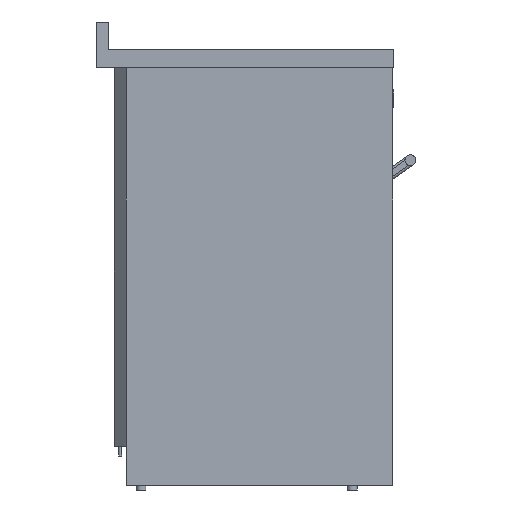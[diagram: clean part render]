
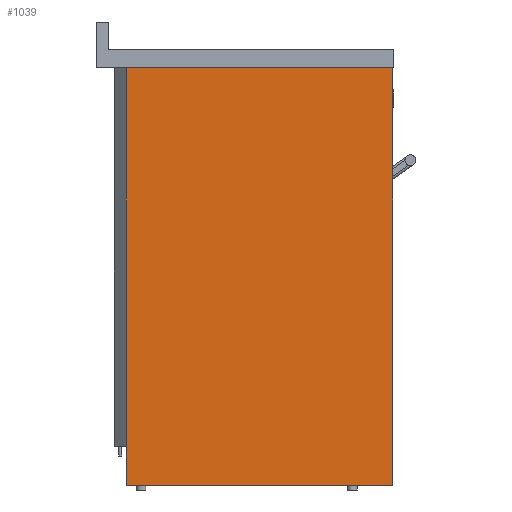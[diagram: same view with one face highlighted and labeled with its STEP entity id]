
A CAD part, left-side view. The second image highlights one B-rep face of the part: STEP entity #1039.
In plain terms, the highlighted planar face has unit normal (-1, 0, 0).
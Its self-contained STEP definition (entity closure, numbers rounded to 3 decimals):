
#479=PLANE('',#6164);
#730=FACE_OUTER_BOUND('',#2717,.T.);
#1039=ADVANCED_FACE('',(#730),#479,.F.);
#1504=LINE('',#8539,#1986);
#1512=LINE('',#8560,#1994);
#1516=LINE('',#8572,#1998);
#1517=LINE('',#8574,#1999);
#1986=VECTOR('',#6879,1.);
#1994=VECTOR('',#6895,1.);
#1998=VECTOR('',#6907,1.);
#1999=VECTOR('',#6908,1.);
#2717=EDGE_LOOP('',(#3296,#3297,#3298,#3299));
#3296=ORIENTED_EDGE('',*,*,#5215,.F.);
#3297=ORIENTED_EDGE('',*,*,#5209,.F.);
#3298=ORIENTED_EDGE('',*,*,#5199,.F.);
#3299=ORIENTED_EDGE('',*,*,#5216,.F.);
#4659=VERTEX_POINT('',#8538);
#4660=VERTEX_POINT('',#8540);
#4668=VERTEX_POINT('',#8558);
#4673=VERTEX_POINT('',#8573);
#5199=EDGE_CURVE('',#4659,#4660,#1504,.T.);
#5209=EDGE_CURVE('',#4660,#4668,#1512,.T.);
#5215=EDGE_CURVE('',#4668,#4673,#1516,.T.);
#5216=EDGE_CURVE('',#4673,#4659,#1517,.T.);
#6164=AXIS2_PLACEMENT_3D('',#8575,#6909,#6910);
#6879=DIRECTION('',(0.,0.,-1.));
#6895=DIRECTION('',(0.,1.,0.));
#6907=DIRECTION('',(0.,0.,1.));
#6908=DIRECTION('',(0.,-1.,0.));
#6909=DIRECTION('',(1.,0.,0.));
#6910=DIRECTION('',(0.,1.,0.));
#8538=CARTESIAN_POINT('',(-166.746,129.263,430.036));
#8539=CARTESIAN_POINT('',(-166.746,129.263,430.036));
#8540=CARTESIAN_POINT('',(-166.746,129.263,-419.964));
#8558=CARTESIAN_POINT('',(-166.746,671.763,-419.964));
#8560=CARTESIAN_POINT('',(-166.746,129.263,-419.964));
#8572=CARTESIAN_POINT('',(-166.746,671.763,-419.964));
#8573=CARTESIAN_POINT('',(-166.746,671.763,430.036));
#8574=CARTESIAN_POINT('',(-166.746,696.263,430.036));
#8575=CARTESIAN_POINT('',(-166.746,129.263,-419.964));
